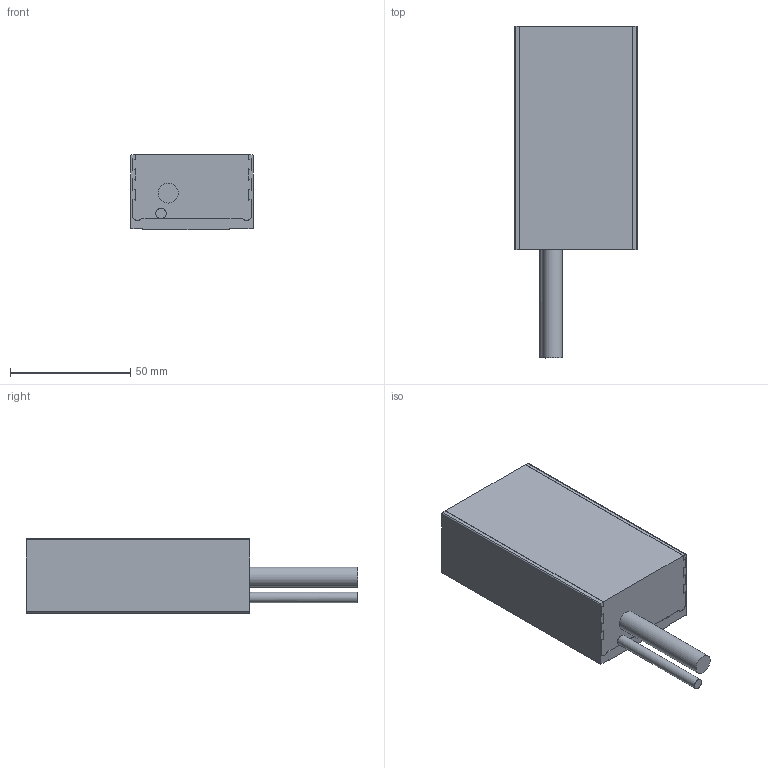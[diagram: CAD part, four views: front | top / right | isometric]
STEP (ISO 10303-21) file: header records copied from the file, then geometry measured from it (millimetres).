
FILE_DESCRIPTION(/* description */ ('Unknown'),/* implementation_level */ '2;1');
FILE_NAME(/* name */ 'Coilunit TM 3_180504',/* time_stamp */ '2018-05-17T09:04:58+02:00',/* author */ ('Tecnotion B.V.'),/* organization */ ('Tecnotion B.V.'),/* preprocessor_version */ 'ST-DEVELOPER v16.7',/* originating_system */ 'DEX',/* authorisation */ $);
FILE_SCHEMA (('CONFIG_CONTROL_DESIGN'));
Length unit declared in the file: millimetre
Products named in the file (1): Coilunit TM 3_180504
Bounding box: 51 x 138 x 31.4 mm (x, y, z)
Volume: 150413.9 mm3; surface area: 21170.1 mm2
Topology: 1 solids, 1 shells, 191 faces, 514 edges, 343 vertices
Faces by surface type: plane 151, cylinder 40
Full cylindrical faces by diameter (mm): 2.459 x3, 3.3 x4, 4.3 x1, 5 x1, 8.3 x1
Entity records: 7194 total; most frequent: CARTESIAN_POINT 1027, ORIENTED_EDGE 996, DIRECTION 963, EDGE_CURVE 498, LINE 417, VECTOR 417, VERTEX_POINT 337, AXIS2_PLACEMENT_3D 273
